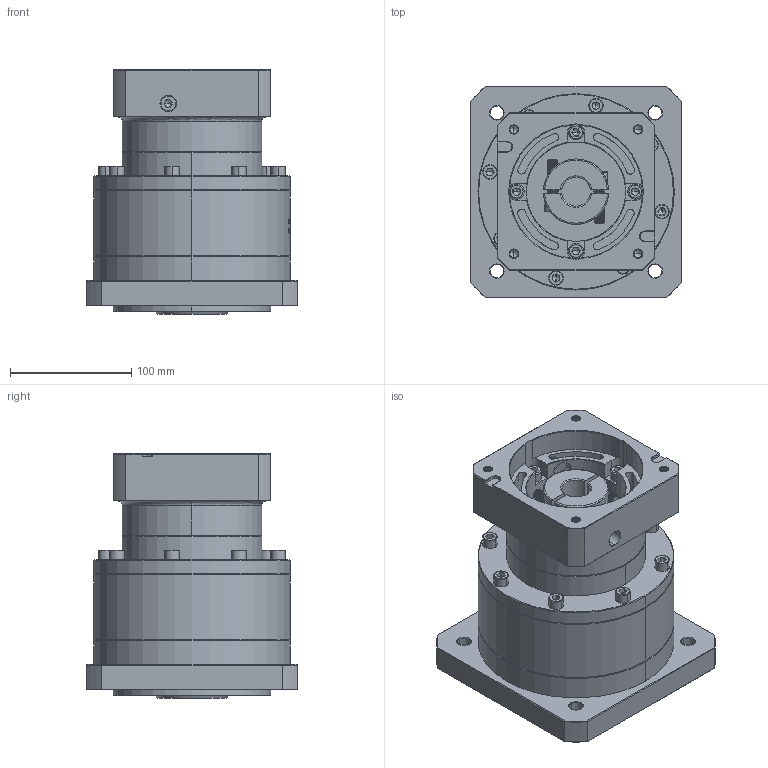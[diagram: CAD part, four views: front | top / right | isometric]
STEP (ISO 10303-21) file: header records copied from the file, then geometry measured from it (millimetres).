
FILE_DESCRIPTION (( 'STEP AP214' ), '1' );
FILE_NAME ('ZF160-K35-L2-24-110-145-M8.step', '2023-03-22T03:59:14', ( '' ), ( '' ), 'SwSTEP 2.0', 'SolidWorks 2016', '' );
FILE_SCHEMA (( 'AUTOMOTIVE_DESIGN' ));
Length unit declared in the file: millimetre
Products named in the file (1): ZF160-K35-L2-24-110-145-M8
Bounding box: 175 x 175 x 202.2 mm (x, y, z)
Volume: 3219904.3 mm3; surface area: 271179.3 mm2
Topology: 6 solids, 6 shells, 1857 faces, 4723 edges, 2985 vertices
Faces by surface type: plane 765, cylinder 474, cone 355, bspline 207, torus 56
Entity records: 96186 total; most frequent: CARTESIAN_POINT 33031, ORIENTED_EDGE 9342, DIRECTION 8256, EDGE_CURVE 4671, VERTEX_POINT 2985, AXIS2_PLACEMENT_3D 2869, LINE 2518, VECTOR 2518
